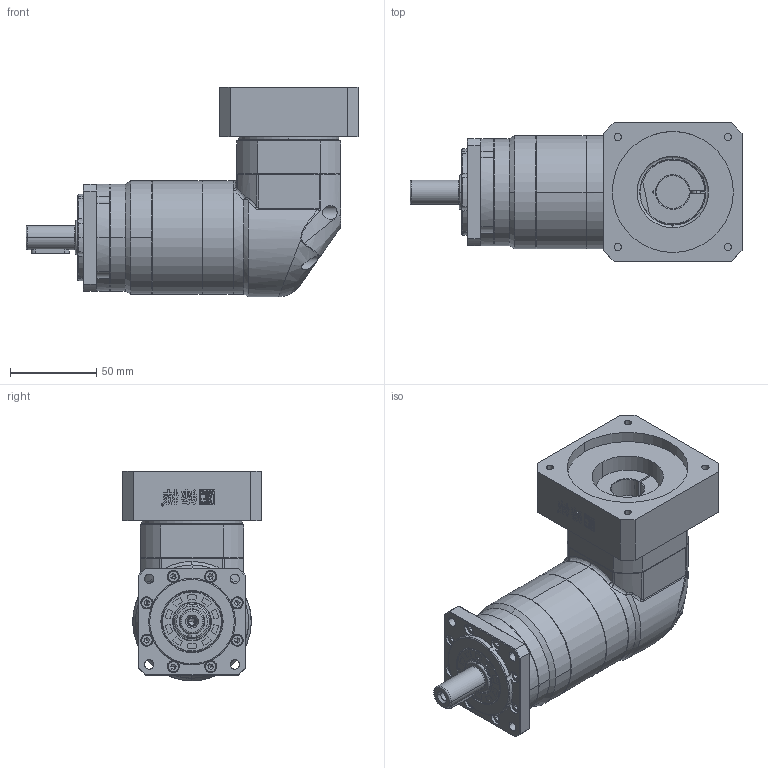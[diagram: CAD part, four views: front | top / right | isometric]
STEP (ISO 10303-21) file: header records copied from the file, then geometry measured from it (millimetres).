
FILE_DESCRIPTION (( 'STEP AP214' ), '1' );
FILE_NAME ('FBR060-L2-S2-P2 19-70-90-M5.STEP', '2021-04-23T07:13:05', ( 'Microsoft' ), ( 'Microsoft China' ), 'SwSTEP 2.0', 'SolidWorks 2016', '' );
FILE_SCHEMA (( 'AUTOMOTIVE_DESIGN' ));
Length unit declared in the file: millimetre
Products named in the file (13): hexagon socket head cap screws gb_GB_FASTENER_SCREWS_HSHCS M4X16-N_1; 8-怀堤傷褲极FBR060_1; A倰す瑩5-22_1; 蚐猾20355; FBR060D怀堤俴陎殤-14粣; FBR060齿圈_1; FBR064D一级内齿圈; 2-输入端壳体FBR060D.; 9-怀堤傷褲极FBR064D_1; 坶踡遠18-37-12(1); 11-输入法兰FBR060D-50-70-M4; 珨撰眻褒眊极FBR064D-5.27; FBR060-L2-S2-P2 19-70-90-M5
Assembly tree (19 placements, depth 2):
  FBR060-L2-S2-P2 19-70-90-M5
    珨撰眻褒眊极FBR064D-5.27
    11-输入法兰FBR060D-50-70-M4
    坶踡遠18-37-12(1)
    9-怀堤傷褲极FBR064D_1
    2-输入端壳体FBR060D.
    FBR064D一级内齿圈
    FBR060齿圈_1
    FBR060D怀堤俴陎殤-14粣
    蚐猾20355
    A倰す瑩5-22_1
    8-怀堤傷褲极FBR060_1
    hexagon socket head cap screws gb_GB_FASTENER_SCREWS_HSHCS M4X16-N_1  x8
Bounding box: 192 x 80 x 121.25 mm (x, y, z)
Volume: 716847 mm3; surface area: 132416.6 mm2
Topology: 20 solids, 20 shells, 1133 faces, 2855 edges, 1826 vertices
Faces by surface type: plane 515, cylinder 305, bspline 188, cone 111, torus 14
Entity records: 46474 total; most frequent: CARTESIAN_POINT 12869, ORIENTED_EDGE 4894, DIRECTION 4261, EDGE_CURVE 2447, VERTEX_POINT 1595, AXIS2_PLACEMENT_3D 1483, LINE 1295, VECTOR 1295
